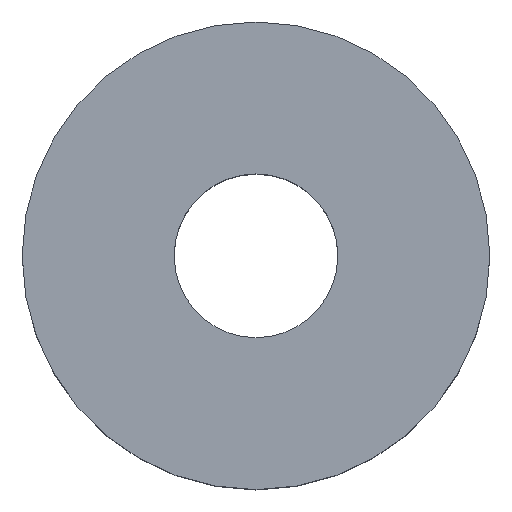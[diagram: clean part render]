
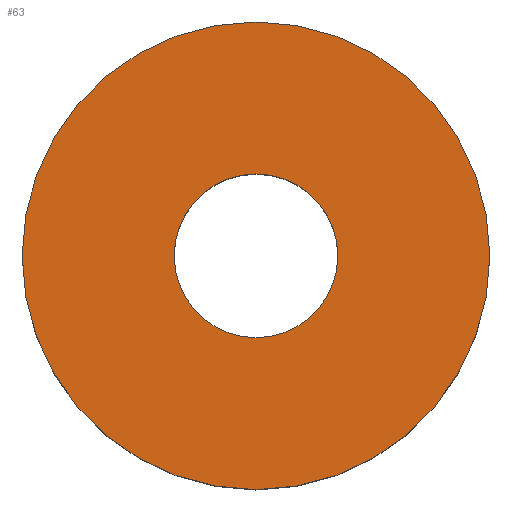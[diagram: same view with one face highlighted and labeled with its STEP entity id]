
A CAD part, top view. The second image highlights one B-rep face of the part: STEP entity #63.
In plain terms, the highlighted planar face has unit normal (0, 0, 1).
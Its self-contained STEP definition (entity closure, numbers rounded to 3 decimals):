
#15=FACE_BOUND('',#26,.T.);
#17=PLANE('',#85);
#21=FACE_OUTER_BOUND('',#25,.T.);
#25=EDGE_LOOP('',(#55));
#26=EDGE_LOOP('',(#56));
#33=CIRCLE('',#80,1.05);
#35=CIRCLE('',#83,3.);
#37=VERTEX_POINT('',#109);
#39=VERTEX_POINT('',#115);
#41=EDGE_CURVE('',#37,#37,#33,.T.);
#44=EDGE_CURVE('',#39,#39,#35,.T.);
#55=ORIENTED_EDGE('',*,*,#44,.T.);
#56=ORIENTED_EDGE('',*,*,#41,.T.);
#63=ADVANCED_FACE('',(#21,#15),#17,.T.);
#80=AXIS2_PLACEMENT_3D('',#110,#91,#92);
#83=AXIS2_PLACEMENT_3D('',#116,#98,#99);
#85=AXIS2_PLACEMENT_3D('',#120,#103,#104);
#91=DIRECTION('center_axis',(0.,0.,-1.));
#92=DIRECTION('ref_axis',(1.,0.,0.));
#98=DIRECTION('center_axis',(0.,0.,1.));
#99=DIRECTION('ref_axis',(1.,0.,0.));
#103=DIRECTION('center_axis',(0.,0.,1.));
#104=DIRECTION('ref_axis',(1.,0.,0.));
#109=CARTESIAN_POINT('',(-1.05,0.,2.5));
#110=CARTESIAN_POINT('Origin',(0.,0.,2.5));
#115=CARTESIAN_POINT('',(-3.,0.,2.5));
#116=CARTESIAN_POINT('Origin',(0.,0.,2.5));
#120=CARTESIAN_POINT('Origin',(0.,0.,2.5));
